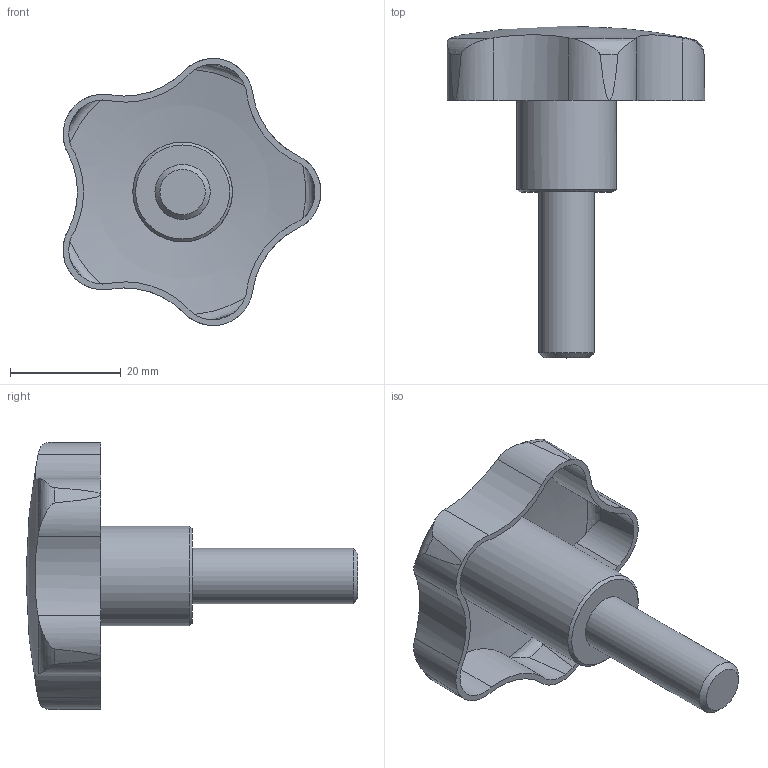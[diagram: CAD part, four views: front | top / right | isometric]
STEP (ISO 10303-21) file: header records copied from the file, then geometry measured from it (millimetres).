
FILE_DESCRIPTION( ( 'STEP AP203' ), '1' );
FILE_NAME( 'C:/Temp/Ganter_Step_05_03_2020/data/2_2/gn_5334_4/gn5334_4_2/Stainless Steel-Star knob with threaded bolt AISI 316L (A4) GN 5334.4-50-M10-30.stp', '2020-03-05T12:08:35', ( 'License CC BY-ND 4.0' ), ( 'CADENAS' ), ' ', 'PARTsolutions', ' ' );
FILE_SCHEMA( ( 'CONFIG_CONTROL_DESIGN' ) );
Length unit declared in the file: millimetre
Products named in the file (1): _Stainless Steel-Star knob with threaded bolt AISI 316L (A4) GN 5334.4-50-M10-30
Bounding box: 46.61 x 60 x 48.26 mm (x, y, z)
Volume: 12969 mm3; surface area: 8804.7 mm2
Topology: 1 solids, 1 shells, 59 faces, 160 edges, 104 vertices
Faces by surface type: cylinder 32, cone 12, torus 10, plane 3, sphere 2
Full cylindrical faces by diameter (mm): 10 x1, 18 x1
Entity records: 2466 total; most frequent: CARTESIAN_POINT 1057, ORIENTED_EDGE 302, DIRECTION 262, EDGE_CURVE 151, AXIS2_PLACEMENT_3D 121, VERTEX_POINT 102, B_SPLINE_CURVE_WITH_KNOTS 70, EDGE_LOOP 66
